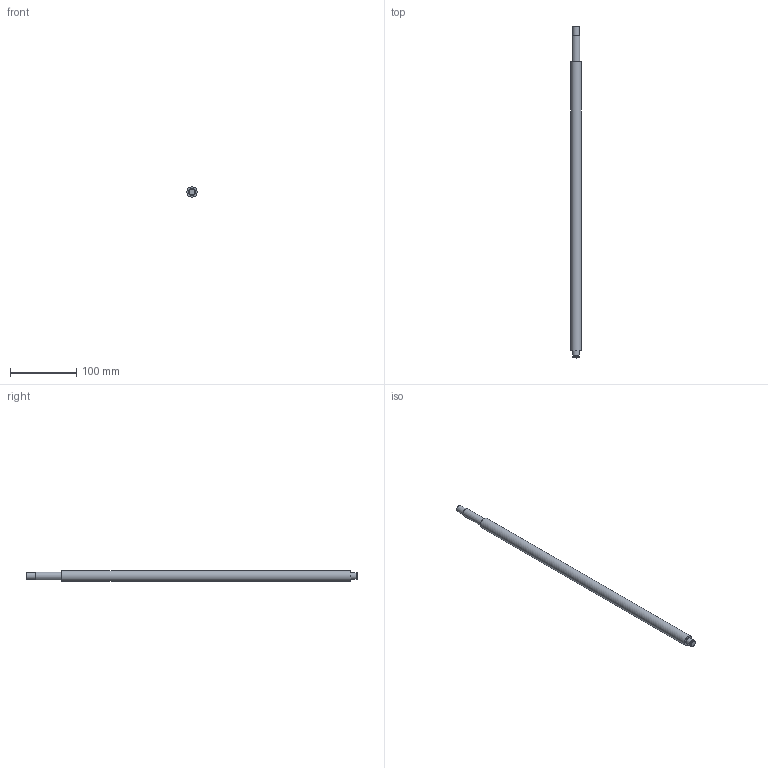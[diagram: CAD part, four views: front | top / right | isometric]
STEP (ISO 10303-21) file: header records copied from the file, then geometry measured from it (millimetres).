
FILE_DESCRIPTION(/* description */ (''),/* implementation_level */ '2;1');
FILE_NAME(/* name */ 'C:\Users\David\Desktop\stepFiles\Profilfuehrung\KUS1605x500.stp',/* time_stamp */ '2018-06-24T15:08:45+02:00',/* author */ ('David'),/* organization */ (''),/* preprocessor_version */ 'ST-DEVELOPER v17',/* originating_system */ 'Autodesk Inventor 2019',/* authorisation */ '');
FILE_SCHEMA (('AUTOMOTIVE_DESIGN { 1 0 10303 214 3 1 1 }'));
Length unit declared in the file: millimetre
Products named in the file (1): SFU1605xvariabel
Bounding box: 16 x 500 x 16 mm (x, y, z)
Volume: 93900.1 mm3; surface area: 24546.5 mm2
Topology: 1 solids, 1 shells, 15 faces, 34 edges, 26 vertices
Faces by surface type: plane 7, cylinder 6, cone 2
Full cylindrical faces by diameter (mm): 9.6 x1, 10 x3, 12 x1, 16 x1
Entity records: 493 total; most frequent: DIRECTION 92, CARTESIAN_POINT 76, ORIENTED_EDGE 68, AXIS2_PLACEMENT_3D 42, EDGE_CURVE 34, CIRCLE 26, VERTEX_POINT 26, EDGE_LOOP 20
